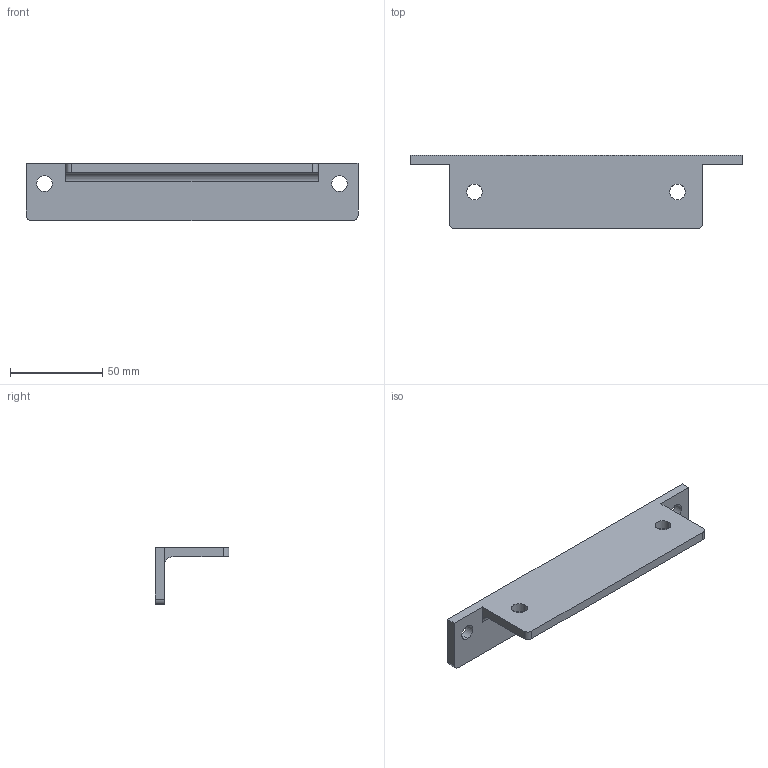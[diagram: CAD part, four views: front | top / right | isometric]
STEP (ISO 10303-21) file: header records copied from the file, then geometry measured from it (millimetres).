
FILE_DESCRIPTION (( 'STEP AP214' ), '1' );
FILE_NAME ('ﾂﾘﾀﾅ.746152.001 ﾊ煇鳫.STEP', '2024-04-17T13:13:38', ( '' ), ( '' ), 'SwSTEP 2.0', 'SolidWorks 2019', '' );
FILE_SCHEMA (( 'AUTOMOTIVE_DESIGN' ));
Length unit declared in the file: millimetre
Products named in the file (1): ﾂﾘﾀﾅ.746152.001 ﾊ煇鳫
Bounding box: 180 x 40 x 31 mm (x, y, z)
Volume: 51436.5 mm3; surface area: 22965.6 mm2
Topology: 1 solids, 1 shells, 23 faces, 63 edges, 42 vertices
Faces by surface type: cylinder 13, plane 10
Entity records: 793 total; most frequent: DIRECTION 137, CARTESIAN_POINT 129, ORIENTED_EDGE 126, EDGE_CURVE 63, AXIS2_PLACEMENT_3D 50, VERTEX_POINT 42, VECTOR 37, LINE 37
